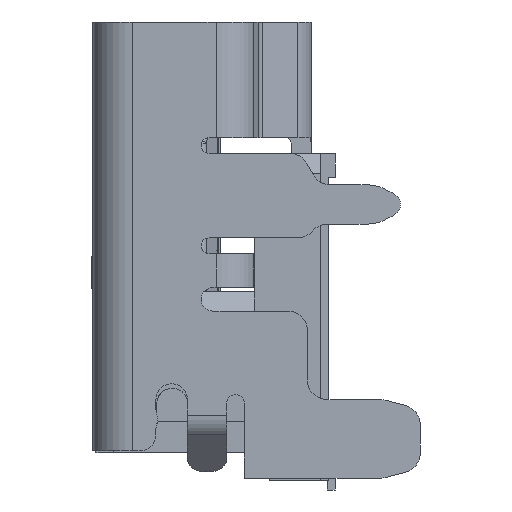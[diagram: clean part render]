
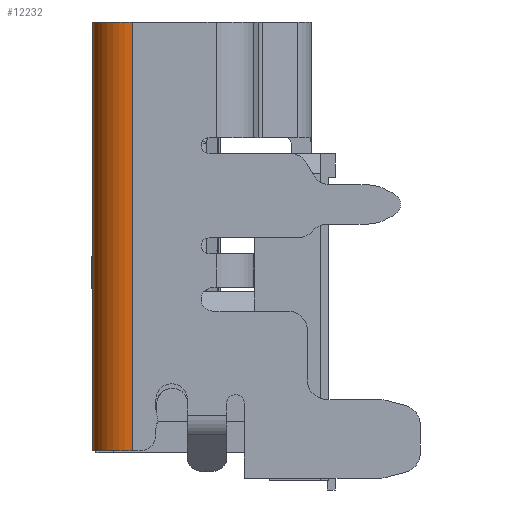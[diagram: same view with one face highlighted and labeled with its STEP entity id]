
A CAD part, left-side view. The second image highlights one B-rep face of the part: STEP entity #12232.
In plain terms, the highlighted cylindrical face has radius 1 mm (diameter 2 mm), a partial arc.
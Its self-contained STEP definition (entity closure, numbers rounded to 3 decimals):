
#132 = AXIS2_PLACEMENT_3D ( 'NONE', #31753, #594, #28326 ) ;
#594 = DIRECTION ( 'NONE',  ( 0., 0., -1. ) ) ;
#691 = CARTESIAN_POINT ( 'NONE',  ( -9.053, 3.218, -1.306 ) ) ;
#739 = CARTESIAN_POINT ( 'NONE',  ( -9.053, 4.218, -12.206 ) ) ;
#2308 = DIRECTION ( 'NONE',  ( 0., 0., 1. ) ) ;
#2424 = CARTESIAN_POINT ( 'NONE',  ( -9.053, 4.218, -1.306 ) ) ;
#2982 = DIRECTION ( 'NONE',  ( 0., 0., 1. ) ) ;
#3928 = EDGE_CURVE ( 'NONE', #18196, #35644, #33483, .T. ) ;
#4980 = ORIENTED_EDGE ( 'NONE', *, *, #3928, .T. ) ;
#7453 = VECTOR ( 'NONE', #32187, 1000. ) ;
#7877 = AXIS2_PLACEMENT_3D ( 'NONE', #691, #10719, #14361 ) ;
#7962 = FACE_OUTER_BOUND ( 'NONE', #16693, .T. ) ;
#9131 = EDGE_CURVE ( 'NONE', #35644, #38996, #9841, .T. ) ;
#9841 = LINE ( 'NONE', #28021, #32155 ) ;
#10719 = DIRECTION ( 'NONE',  ( 0., 0., 1. ) ) ;
#12232 = ADVANCED_FACE ( 'NONE', ( #7962 ), #21163, .T. ) ;
#12348 = CARTESIAN_POINT ( 'NONE',  ( -9.053, 3.218, -12.206 ) ) ;
#14361 = DIRECTION ( 'NONE',  ( 0., -1., 0. ) ) ;
#16693 = EDGE_LOOP ( 'NONE', ( #28405, #4980, #17927, #32862 ) ) ;
#17927 = ORIENTED_EDGE ( 'NONE', *, *, #9131, .T. ) ;
#18196 = VERTEX_POINT ( 'NONE', #739 ) ;
#18304 = CARTESIAN_POINT ( 'NONE',  ( -9.053, 4.218, -1.306 ) ) ;
#21163 = CYLINDRICAL_SURFACE ( 'NONE', #7877, 1. ) ;
#24996 = CARTESIAN_POINT ( 'NONE',  ( -10.053, 3.218, -1.306 ) ) ;
#25997 = DIRECTION ( 'NONE',  ( 0., -1., 0. ) ) ;
#28021 = CARTESIAN_POINT ( 'NONE',  ( -10.053, 3.218, -1.306 ) ) ;
#28311 = LINE ( 'NONE', #18304, #7453 ) ;
#28326 = DIRECTION ( 'NONE',  ( 0., -1., 0. ) ) ;
#28405 = ORIENTED_EDGE ( 'NONE', *, *, #38059, .T. ) ;
#31753 = CARTESIAN_POINT ( 'NONE',  ( -9.053, 3.218, -1.306 ) ) ;
#32155 = VECTOR ( 'NONE', #2982, 1000. ) ;
#32187 = DIRECTION ( 'NONE',  ( 0., 0., -1. ) ) ;
#32397 = CARTESIAN_POINT ( 'NONE',  ( -10.053, 3.218, -12.206 ) ) ;
#32862 = ORIENTED_EDGE ( 'NONE', *, *, #35136, .T. ) ;
#33483 = CIRCLE ( 'NONE', #44343, 1. ) ;
#33731 = VERTEX_POINT ( 'NONE', #2424 ) ;
#35136 = EDGE_CURVE ( 'NONE', #38996, #33731, #44417, .T. ) ;
#35644 = VERTEX_POINT ( 'NONE', #32397 ) ;
#38059 = EDGE_CURVE ( 'NONE', #33731, #18196, #28311, .T. ) ;
#38996 = VERTEX_POINT ( 'NONE', #24996 ) ;
#44343 = AXIS2_PLACEMENT_3D ( 'NONE', #12348, #2308, #25997 ) ;
#44417 = CIRCLE ( 'NONE', #132, 1. ) ;
